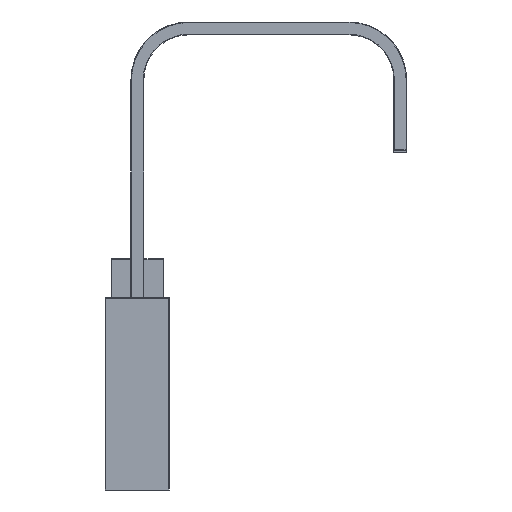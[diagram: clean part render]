
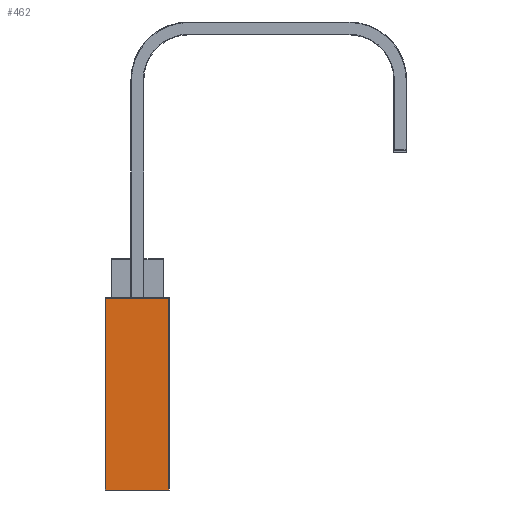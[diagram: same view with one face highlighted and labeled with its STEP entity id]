
A CAD part, left-side view. The second image highlights one B-rep face of the part: STEP entity #462.
In plain terms, the highlighted planar face has unit normal (-1, 0, 0).
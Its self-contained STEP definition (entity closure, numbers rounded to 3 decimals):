
#462=ADVANCED_FACE('',(#1672),#1674,.T.);
#1672=FACE_BOUND('',#1673,.T.);
#1673=EDGE_LOOP('',(#2858,#2859,#2860,#2861));
#1674=PLANE('',#1675);
#1675=AXIS2_PLACEMENT_3D('',#1676,#1677,#1678);
#1676=CARTESIAN_POINT('',(-25.,25.,0.));
#1677=DIRECTION('',(-1.,0.,0.));
#1678=DIRECTION('',(0.,-1.,0.));
#2858=ORIENTED_EDGE('',*,*,#3395,.T.);
#2859=ORIENTED_EDGE('',*,*,#3396,.F.);
#2860=ORIENTED_EDGE('',*,*,#3397,.F.);
#2861=ORIENTED_EDGE('',*,*,#3398,.T.);
#3395=EDGE_CURVE('',#3769,#3770,#3771,.T.);
#3396=EDGE_CURVE('',#3772,#3770,#3773,.T.);
#3397=EDGE_CURVE('',#3774,#3772,#3775,.T.);
#3398=EDGE_CURVE('',#3774,#3769,#3776,.T.);
#3769=VERTEX_POINT('',#4585);
#3770=VERTEX_POINT('',#4586);
#3771=LINE('',#4587,#4588);
#3772=VERTEX_POINT('',#4590);
#3773=LINE('',#4591,#4592);
#3774=VERTEX_POINT('',#4594);
#3775=LINE('',#4595,#4596);
#3776=LINE('',#4598,#4599);
#4585=CARTESIAN_POINT('',(-25.,-24.6,0.));
#4586=CARTESIAN_POINT('',(-25.,-24.6,149.6));
#4587=CARTESIAN_POINT('',(-25.,-24.6,0.));
#4588=VECTOR('',#4589,1.);
#4589=DIRECTION('',(0.,0.,1.));
#4590=CARTESIAN_POINT('',(-25.,24.6,149.6));
#4591=CARTESIAN_POINT('',(-25.,24.6,149.6));
#4592=VECTOR('',#4593,1.);
#4593=DIRECTION('',(0.,-1.,0.));
#4594=CARTESIAN_POINT('',(-25.,24.6,0.));
#4595=CARTESIAN_POINT('',(-25.,24.6,0.));
#4596=VECTOR('',#4597,1.);
#4597=DIRECTION('',(0.,0.,1.));
#4598=CARTESIAN_POINT('',(-25.,24.6,0.));
#4599=VECTOR('',#4600,1.);
#4600=DIRECTION('',(0.,-1.,0.));
